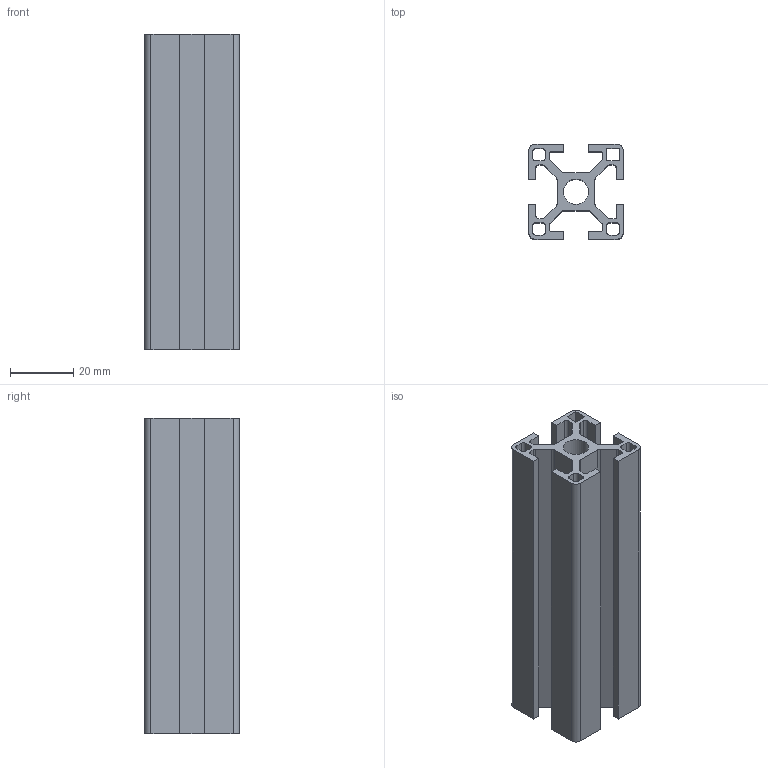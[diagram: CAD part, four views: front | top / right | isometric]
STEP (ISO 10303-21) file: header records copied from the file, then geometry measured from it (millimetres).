
FILE_DESCRIPTION(/* description */ (''),/* implementation_level */ '2;1');
FILE_NAME(/* name */ '3030 - Beam.stp',/* time_stamp */ '2026-02-04T09:03:58+08:00',/* author */ ('shane'),/* organization */ (''),/* preprocessor_version */ 'ST-DEVELOPER v20.1',/* originating_system */ 'Autodesk Inventor 2026',/* authorisation */ '');
FILE_SCHEMA (('AUTOMOTIVE_DESIGN { 1 0 10303 214 3 1 1 }'));
Length unit declared in the file: millimetre
Products named in the file (1): 3030 - Beam
Bounding box: 30 x 30 x 100 mm (x, y, z)
Volume: 32855.6 mm3; surface area: 32747 mm2
Topology: 1 solids, 1 shells, 101 faces, 297 edges, 198 vertices
Faces by surface type: plane 62, cylinder 39
Full cylindrical faces by diameter (mm): 8 x1
Entity records: 3432 total; most frequent: CARTESIAN_POINT 597, ORIENTED_EDGE 594, DIRECTION 579, EDGE_CURVE 297, LINE 219, VECTOR 219, VERTEX_POINT 198, AXIS2_PLACEMENT_3D 180
